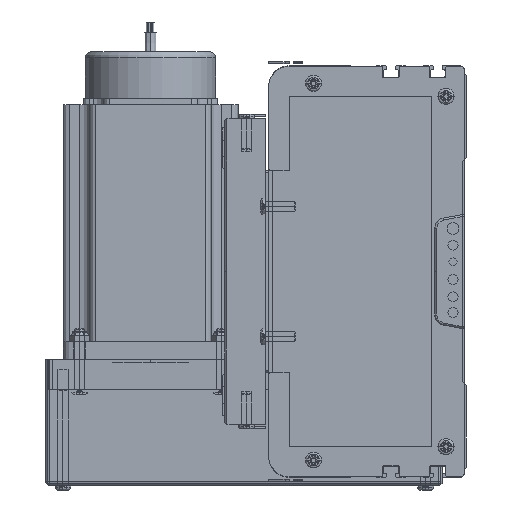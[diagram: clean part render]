
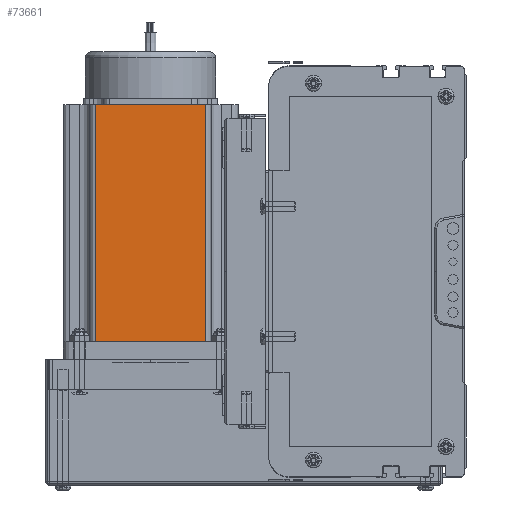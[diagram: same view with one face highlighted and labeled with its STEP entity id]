
A CAD part, left-side view. The second image highlights one B-rep face of the part: STEP entity #73661.
In plain terms, the highlighted planar face has unit normal (-1, 0, 0) as drawn and (0, -1, 0) by its records, which use the part's own axes.
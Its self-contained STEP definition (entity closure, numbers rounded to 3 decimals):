
#73236 = EDGE_CURVE ( 'NONE', #73843, #73728, #143781, .T. ) ;
#73286 = ORIENTED_EDGE ( 'NONE', *, *, #73236, .T. ) ;
#73497 = VERTEX_POINT ( 'NONE', #144371 ) ;
#73499 = VERTEX_POINT ( 'NONE', #144534 ) ;
#73631 = EDGE_LOOP ( 'NONE', ( #73689, #73685, #73842, #73286 ) ) ;
#73661 = ADVANCED_FACE ( 'NONE', ( #144905 ), #144925, .F. ) ;
#73685 = ORIENTED_EDGE ( 'NONE', *, *, #73691, .T. ) ;
#73689 = ORIENTED_EDGE ( 'NONE', *, *, #73798, .T. ) ;
#73691 = EDGE_CURVE ( 'NONE', #73497, #73499, #144804, .T. ) ;
#73728 = VERTEX_POINT ( 'NONE', #144993 ) ;
#73732 = EDGE_CURVE ( 'NONE', #73843, #73499, #144930, .T. ) ;
#73798 = EDGE_CURVE ( 'NONE', #73728, #73497, #144814, .T. ) ;
#73842 = ORIENTED_EDGE ( 'NONE', *, *, #73732, .F. ) ;
#73843 = VERTEX_POINT ( 'NONE', #144955 ) ;
#143769 = DIRECTION ( 'NONE',  ( 0., 0., -1. ) ) ;
#143770 = VECTOR ( 'NONE', #143769, 1000. ) ;
#143781 = LINE ( 'NONE', #143799, #143770 ) ;
#143799 = CARTESIAN_POINT ( 'NONE',  ( 16.16, 0., 116.5 ) ) ;
#144371 = CARTESIAN_POINT ( 'NONE',  ( 69.74, 0., 0. ) ) ;
#144534 = CARTESIAN_POINT ( 'NONE',  ( 69.74, 0., 116.5 ) ) ;
#144804 = LINE ( 'NONE', #145126, #145125 ) ;
#144814 = LINE ( 'NONE', #144969, #144967 ) ;
#144905 = FACE_OUTER_BOUND ( 'NONE', #73631, .T. ) ;
#144925 = PLANE ( 'NONE',  #145242 ) ;
#144929 = CARTESIAN_POINT ( 'NONE',  ( 0., 0., 116.5 ) ) ;
#144930 = LINE ( 'NONE', #144929, #145227 ) ;
#144955 = CARTESIAN_POINT ( 'NONE',  ( 16.16, 0., 116.5 ) ) ;
#144966 = DIRECTION ( 'NONE',  ( 1., 0., 0. ) ) ;
#144967 = VECTOR ( 'NONE', #144966, 1000. ) ;
#144969 = CARTESIAN_POINT ( 'NONE',  ( 0., 0., 0. ) ) ;
#144993 = CARTESIAN_POINT ( 'NONE',  ( 16.16, 0., 0. ) ) ;
#145125 = VECTOR ( 'NONE', #145130, 1000. ) ;
#145126 = CARTESIAN_POINT ( 'NONE',  ( 69.74, 0., 116.5 ) ) ;
#145130 = DIRECTION ( 'NONE',  ( 0., 0., 1. ) ) ;
#145226 = DIRECTION ( 'NONE',  ( 1., 0., 0. ) ) ;
#145227 = VECTOR ( 'NONE', #145226, 1000. ) ;
#145238 = DIRECTION ( 'NONE',  ( 0., 0., 1. ) ) ;
#145239 = DIRECTION ( 'NONE',  ( 0., 1., 0. ) ) ;
#145240 = CARTESIAN_POINT ( 'NONE',  ( 0., 0., 116.5 ) ) ;
#145242 = AXIS2_PLACEMENT_3D ( 'NONE', #145240, #145239, #145238 ) ;
